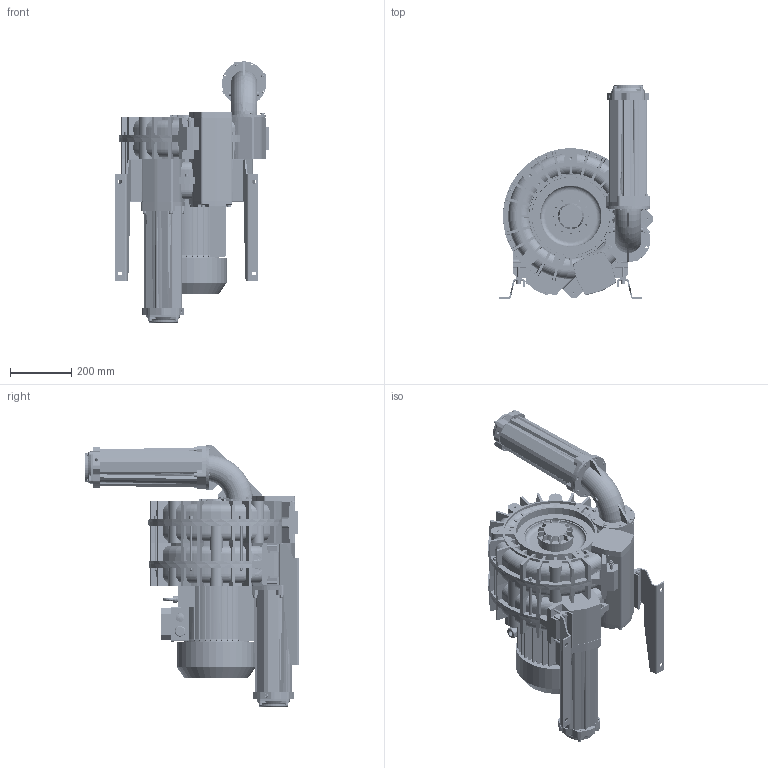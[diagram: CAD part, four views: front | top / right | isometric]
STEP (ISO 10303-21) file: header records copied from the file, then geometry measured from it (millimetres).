
FILE_DESCRIPTION (( 'STEP AP203' ), '1' );
FILE_NAME ('STP-L_e_07_TD_MOR_IE3WR_132_5.5kW-3_24-00.step', '2025-01-08T15:22:14', ( '' ), ( '' ), 'SwSTEP 2.0', 'SolidWorks 2024', '' );
FILE_SCHEMA (( 'CONFIG_CONTROL_DESIGN' ));
Products named in the file (1): STP-L_e_07_TD_MOR_IE3WR_132_5.5kW-3_24-00
Bounding box: 501.29 x 698.54 x 854 mm (x, y, z)
Volume: 59651347.8 mm3; surface area: 3915603.3 mm2
Topology: 104 solids, 112 shells, 6595 faces, 16991 edges, 10637 vertices
Faces by surface type: plane 2429, cylinder 2070, bspline 930, torus 600, cone 517, sphere 49
Full cylindrical faces by diameter (mm): 5 x16, 6 x26, 6.4 x8, 6.8 x22, 7.5 x4, 8 x31, 8.4 x31, 8.5 x8, 8.566 x2, 8.8 x4, 9 x16, 9.5 x6, 9.98 x2, 10 x21, 12 x2, 12.02 x2, 13 x42, 14 x14, 16 x8, 16.5 x2, 18 x1, 19 x1, 20 x2, 21.4 x1, 24 x4, 25 x3, 28 x1, 85.3 x2, 108 x3, 115 x4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
Entity records: 278614 total; most frequent: CARTESIAN_POINT 131389, ORIENTED_EDGE 32062, DIRECTION 28456, EDGE_CURVE 16031, AXIS2_PLACEMENT_3D 11024, VERTEX_POINT 10361, EDGE_LOOP 7510, FACE_OUTER_BOUND 7005
